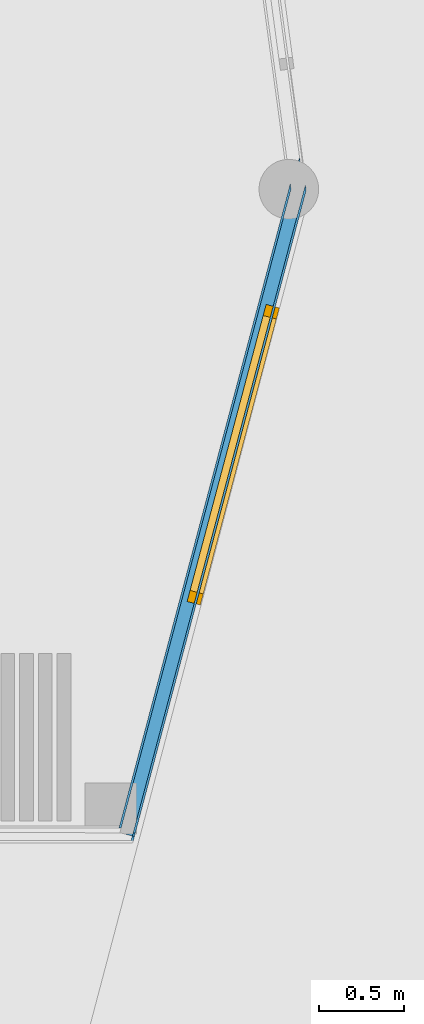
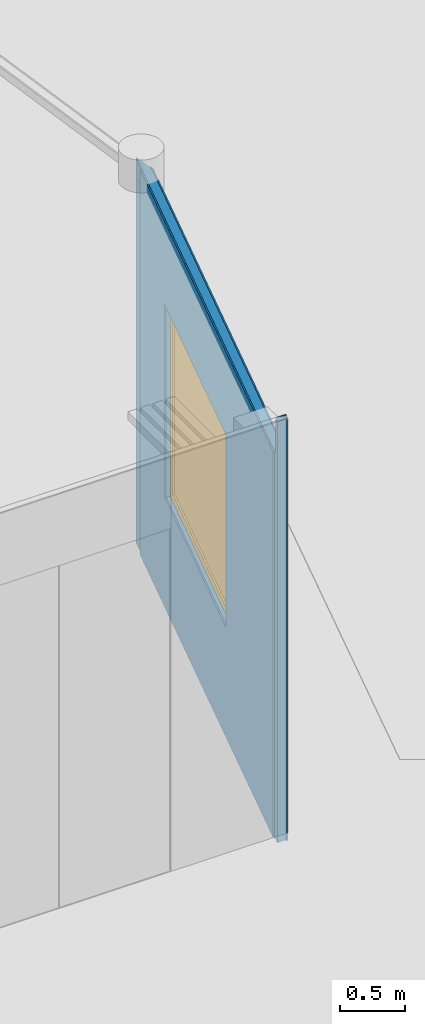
# One storey, part 30 of 167: 3 building element parts, 1 window, 1 opening, 1 element without a shape of its own.
"""IFC2X3 building model written with IfcOpenShell, lengths in millimetres."""

from ifc_helpers import new_model, entity, si_unit, converted_unit, derived_unit, money_unit, direction, frame, origin_with_axes, place, context, subcontext, project, spatial, open_shell, faceted_brep, surface_model, source, transform, mapped, material, type_object, type_shapes, element, fill, aggregate, save


model = new_model("IFC2X3")

# Units and contexts
model_context = context("Model", 3, precision=0.01, world=origin_with_axes(), true_north=direction((0.0, 1.0)))
plan_context = context("Plan", 3, precision=0.01, world=origin_with_axes(), true_north=direction((0.0, 1.0)))
body_context = subcontext(model_context, "Body", "Model", "MODEL_VIEW")
ifc_project = project(units=[si_unit("LENGTHUNIT", "METRE", prefix="MILLI"), si_unit("AREAUNIT", "SQUARE_METRE"), si_unit("VOLUMEUNIT", "CUBIC_METRE"), converted_unit("PLANEANGLEUNIT", "DEGREE", entity("IfcPlaneAngleMeasure", 0.0174532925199), si_unit("PLANEANGLEUNIT", "RADIAN"), dimensions=[0, 0, 0, 0, 0, 0, 0]), si_unit("SOLIDANGLEUNIT", "STERADIAN"), money_unit("EUR"), converted_unit("TIMEUNIT", "Year", entity("IfcTimeMeasure", 31556926.0), si_unit("TIMEUNIT", "SECOND"), dimensions=[0, 0, 1, 0, 0, 0, 0]), si_unit("MASSUNIT", "GRAM", prefix="KILO"), si_unit("THERMODYNAMICTEMPERATUREUNIT", "DEGREE_CELSIUS"), si_unit("LUMINOUSINTENSITYUNIT", "LUMEN"), si_unit("ENERGYUNIT", "JOULE", prefix="MEGA"), derived_unit("THERMALCONDUCTANCEUNIT", [(si_unit("POWERUNIT", "WATT"), 1), (si_unit("LENGTHUNIT", "METRE"), -1), (si_unit("THERMODYNAMICTEMPERATUREUNIT", "KELVIN"), -1)]), derived_unit("SPECIFICHEATCAPACITYUNIT", [(si_unit("ENERGYUNIT", "JOULE"), 1), (si_unit("MASSUNIT", "GRAM", prefix="KILO"), -1), (si_unit("THERMODYNAMICTEMPERATUREUNIT", "KELVIN"), -1)]), derived_unit("MASSDENSITYUNIT", [(si_unit("MASSUNIT", "GRAM", prefix="KILO"), 1), (si_unit("VOLUMEUNIT", "CUBIC_METRE"), -1)])], contexts=[model_context, plan_context])

# Site, building, storey
site_placement = place(None, origin_with_axes())
site = spatial("IfcSite", under=ifc_project, at=site_placement, Name="Site", CompositionType="ELEMENT")
building_placement = place(site_placement, origin_with_axes())
building = spatial("IfcBuilding", under=site, at=building_placement, Name="Naam gebouw", CompositionType="ELEMENT")
storey_placement = place(building_placement, origin_with_axes())
storey = spatial("IfcBuildingStorey", under=building, at=storey_placement, Name="Begane grond", CompositionType="ELEMENT", Elevation=0.0)

# Window
window_style = type_object("IfcWindowStyle", Name="R1 24", ConstructionType="NOTDEFINED", OperationType="SINGLE_PANEL", ParameterTakesPrecedence=False, Sizeable=False)
shared_shape = source(origin_with_axes(), body_context, "Body", "SurfaceModel", [
    faceted_brep([(-833.0, -80.0, 1733.0), (-833.0, 0.0, 1733.0), (-900.0, 0.0, 1733.0), (-900.0, -80.0, 1733.0), (-833.0, -80.0, 67.0), (-833.0, 0.0, 67.0), (-900.0, 0.0, 67.0), (-900.0, -80.0, 67.0)], [[[0, 1, 2, 3]], [[4, 5, 1, 0]], [[1, 5, 6, 2]], [[3, 2, 6, 7]], [[0, 3, 7, 4]], [[7, 6, 5, 4]]]),
    faceted_brep([(833.0, -80.0, 67.0), (833.0, 0.0, 67.0), (900.0, 0.0, 67.0), (900.0, -80.0, 67.0), (833.0, -80.0, 1733.0), (833.0, 0.0, 1733.0), (900.0, 0.0, 1733.0), (900.0, -80.0, 1733.0)], [[[0, 1, 2, 3]], [[4, 5, 1, 0]], [[1, 5, 6, 2]], [[3, 2, 6, 7]], [[0, 3, 7, 4]], [[7, 6, 5, 4]]]),
    faceted_brep([(-833.0, -80.0, 67.0), (-833.0, 0.0, 67.0), (-900.0, 0.0, 67.0), (-900.0, -80.0, 67.0), (833.0, -80.0, 67.0), (833.0, 0.0, 67.0), (900.0, 0.0, 67.0), (900.0, 0.0, 0.0), (-900.0, 0.0, 0.0), (-900.0, -80.0, 0.0), (900.0, -80.0, 0.0), (900.0, -80.0, 67.0)], [[[0, 1, 2, 3]], [[4, 5, 1, 0]], [[1, 5, 6, 7, 8, 2]], [[3, 2, 8, 9]], [[0, 3, 9, 10, 11, 4]], [[11, 6, 5, 4]], [[10, 7, 6, 11]], [[9, 8, 7, 10]]]),
    faceted_brep([(833.0, -80.0, 1733.0), (833.0, 0.0, 1733.0), (900.0, 0.0, 1733.0), (900.0, -80.0, 1733.0), (-833.0, -80.0, 1733.0), (-833.0, 0.0, 1733.0), (-900.0, 0.0, 1733.0), (-900.0, 0.0, 1800.0), (900.0, 0.0, 1800.0), (900.0, -80.0, 1800.0), (-900.0, -80.0, 1800.0), (-900.0, -80.0, 1733.0)], [[[0, 1, 2, 3]], [[4, 5, 1, 0]], [[1, 5, 6, 7, 8, 2]], [[3, 2, 8, 9]], [[0, 3, 9, 10, 11, 4]], [[11, 6, 5, 4]], [[10, 7, 6, 11]], [[9, 8, 7, 10]]]),
    surface_model("IfcShellBasedSurfaceModel", [(-833.0, -64.0, 67.0), (833.0, -64.0, 67.0), (833.0, -64.0, 1733.0), (-833.0, -64.0, 1733.0)], [open_shell([[[0, 1, 2, 3]]])]),
    surface_model("IfcShellBasedSurfaceModel", [(-833.0, -44.0, 67.0), (-833.0, -44.0, 1733.0), (833.0, -44.0, 1733.0), (833.0, -44.0, 67.0)], [open_shell([[[0, 1, 2, 3]]])]),
])
type_shapes(window_style, [shared_shape])
wall_placement = place(storey_placement, frame((22396.2331385, 25025.0, -70.0), z_axis=(0.0, 0.0, 1.0), x_axis=(0.256969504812, 0.966419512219, 0.0)))
opening_placement = place(wall_placement, frame((2309.73740049, 0.0, 1025.40981859), z_axis=(0.0, 0.0, 1.0), x_axis=(1.0, 0.0, 0.0)))
window_placement = place(opening_placement, frame((900.0, 0.0, 0.0), z_axis=(0.0, 0.0, 1.0), x_axis=(-1.0, 0.0, 0.0)))
window = element("IfcWindow", 1, at=window_placement, inside=storey, type_object=window_style, Name="31_Raam_Hi-47", ObjectType="WINDOW", OverallHeight=1800.0, OverallWidth=1800.0, context=body_context, shape_type="MappedRepresentation", body=[
    mapped(shared_shape, transform((900.0, 75.0, 0.0))),
])

# Wall, opening
wall_type = type_object("IfcWallType", Name="_TenW_22_Metalstud 100 enkel gipsvezelplaat 100", PredefinedType="NOTDEFINED")
wall = element("IfcWall", 2, at=wall_placement, inside=storey, type_object=wall_type, Name="22_Wand_Wand-x")
opening = element("IfcOpeningElement", 3, at=opening_placement, cuts=wall, Name="31_Raam_Hi-47", context=body_context, shape_type="Brep", body=[
    faceted_brep([(-900.0, 100.0, 1800.0), (-900.0, 100.0, 0.0), (-900.0, -225.0, 0.0), (-900.0, -225.0, 1800.0), (900.0, 100.0, 1800.0), (900.0, 100.0, 0.0), (900.0, -225.0, 0.0), (900.0, -225.0, 1800.0)], [[[0, 1, 2, 3]], [[0, 4, 5, 1]], [[1, 5, 6, 2]], [[3, 2, 6, 7]], [[4, 0, 3, 7]], [[5, 4, 7, 6]]]),
])

fill(opening, window)

# Building element part
ifc_material_1 = material(Name="Gipsplaat watervast")
building_element_part_1_placement = place(wall_placement, origin_with_axes())
building_element_part_1 = element("IfcBuildingElementPart", 4, at=building_element_part_1_placement, material=ifc_material_1, Name="Gipsplaat watervast", context=body_context, shape_type="Brep", body=[
    faceted_brep([(3928.70095848, 50.0, 3600.0), (3928.70095848, 50.0, 0.0), (25.5080991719, 50.0, 0.0), (25.5080991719, 50.0, 3600.0), (1409.73740049, 50.0, 1025.40981859), (3209.73740049, 50.0, 1025.40981859), (3209.73740049, 50.0, 2825.40981859), (1409.73740049, 50.0, 2825.40981859), (3898.67672118, 37.5, 3600.0), (3898.67672118, 37.5, 0.0), (28.8318305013, 37.5, 0.0), (28.8318305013, 37.5, 3600.0), (1409.73740049, 37.5, 1025.40981859), (3209.73740049, 37.5, 1025.40981859), (3209.73740049, 37.5, 2825.40981859), (1409.73740049, 37.5, 2825.40981859)], [[[0, 1, 2, 3], [4, 5, 6, 7]], [[8, 9, 1, 0]], [[1, 9, 10, 2]], [[3, 2, 10, 11]], [[8, 0, 3, 11]], [[12, 13, 5, 4]], [[13, 14, 6, 5]], [[14, 15, 7, 6]], [[15, 12, 4, 7]], [[11, 10, 9, 8], [12, 15, 14, 13]]]),
])

ifc_material_2 = material(Name="Isolatie - Steenwol zacht")
building_element_part_2_placement = place(wall_placement, origin_with_axes())
building_element_part_2 = element("IfcBuildingElementPart", 5, at=building_element_part_2_placement, material=ifc_material_2, Name="Isolatie - Steenwol zacht", context=body_context, shape_type="Brep", body=[
    faceted_brep([(-48.7742184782, 37.5, 0.0), (-48.7742184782, 37.5, 3930.0), (-1.33028476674, 37.5, 3930.0), (-1.33028476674, 37.5, 3600.0), (4093.81096655, 37.5, 3600.0), (4093.81096655, 37.5, 0.0), (1409.73740049, 37.5, 1025.40981859), (3209.73740049, 37.5, 1025.40981859), (3209.73740049, 37.5, 2825.40981859), (1409.73740049, 37.5, 2825.40981859), (-28.8318305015, -37.5, 0.0), (-28.8318305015, -37.5, 3930.0), (0.0, -37.5, 3930.0), (0.0, 32.4126258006, 3930.0), (0.0, 32.4126258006, 3940.0), (18.2812778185, -37.5, 3940.0), (18.2812778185, -37.5, 3600.0), (3913.66554275, -37.5, 3600.0), (3913.66554275, -37.5, 0.0), (1409.73740049, -37.5, 1025.40981859), (3209.73740049, -37.5, 1025.40981859), (3209.73740049, -37.5, 2825.40981859), (1409.73740049, -37.5, 2825.40981859), (0.0, -37.5, 3940.0)], [[[0, 1, 2, 3, 4, 5], [6, 7, 8, 9]], [[10, 11, 1, 0]], [[1, 11, 12, 13, 2]], [[13, 14, 15, 16, 3, 2]], [[17, 4, 3, 16]], [[17, 18, 5, 4]], [[5, 18, 10, 0]], [[19, 20, 7, 6]], [[20, 21, 8, 7]], [[21, 22, 9, 8]], [[22, 19, 6, 9]], [[10, 18, 17, 16, 15, 23, 12, 11], [19, 22, 21, 20]], [[13, 12, 23, 14]], [[15, 14, 23]]]),
])

building_element_part_3_placement = place(wall_placement, origin_with_axes())
building_element_part_3 = element("IfcBuildingElementPart", 6, at=building_element_part_3_placement, material=ifc_material_1, Name="Gipsplaat watervast", context=body_context, shape_type="Brep", body=[
    faceted_brep([(-41.7661719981, -37.5, 3930.0), (0.0, -37.5, 3930.0), (18.2812778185, -37.5, 3930.0), (18.2812778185, -37.5, 3600.0), (3946.18790884, -37.5, 3600.0), (3946.18790884, -37.5, 0.0), (-41.7661719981, -37.5, 0.0), (1409.73740049, -37.5, 1025.40981859), (3209.73740049, -37.5, 1025.40981859), (3209.73740049, -37.5, 2825.40981859), (1409.73740049, -37.5, 2825.40981859), (-38.4424406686, -50.0, 3930.0), (0.0, -50.0, 3930.0), (0.0, -37.6758040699, 3930.0), (18.2884180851, -37.52730634, 3930.0), (18.2884180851, -37.52730634, 3940.0), (21.5498715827, -50.0, 3940.0), (21.5498715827, -50.0, 3600.0), (3916.16367154, -50.0, 3600.0), (3916.16367154, -50.0, 0.0), (-38.4424406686, -50.0, 0.0), (1409.73740049, -50.0, 1025.40981859), (3209.73740049, -50.0, 1025.40981859), (3209.73740049, -50.0, 2825.40981859), (1409.73740049, -50.0, 2825.40981859), (0.0, -50.0, 3940.0), (0.0, -37.6758040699, 3940.0)], [[[0, 1, 2, 3, 4, 5, 6], [7, 8, 9, 10]], [[1, 0, 11, 12, 13]], [[2, 1, 13, 14]], [[2, 14, 15, 16, 17, 3]], [[18, 4, 3, 17]], [[18, 19, 5, 4]], [[6, 5, 19, 20]], [[6, 20, 11, 0]], [[21, 22, 8, 7]], [[22, 23, 9, 8]], [[23, 24, 10, 9]], [[24, 21, 7, 10]], [[20, 19, 18, 17, 16, 25, 12, 11], [21, 24, 23, 22]], [[26, 13, 12, 25]], [[14, 13, 26, 15]], [[15, 26, 25, 16]]]),
])

aggregate(wall, [building_element_part_1, building_element_part_2, building_element_part_3])

save(model, "model.ifc")
